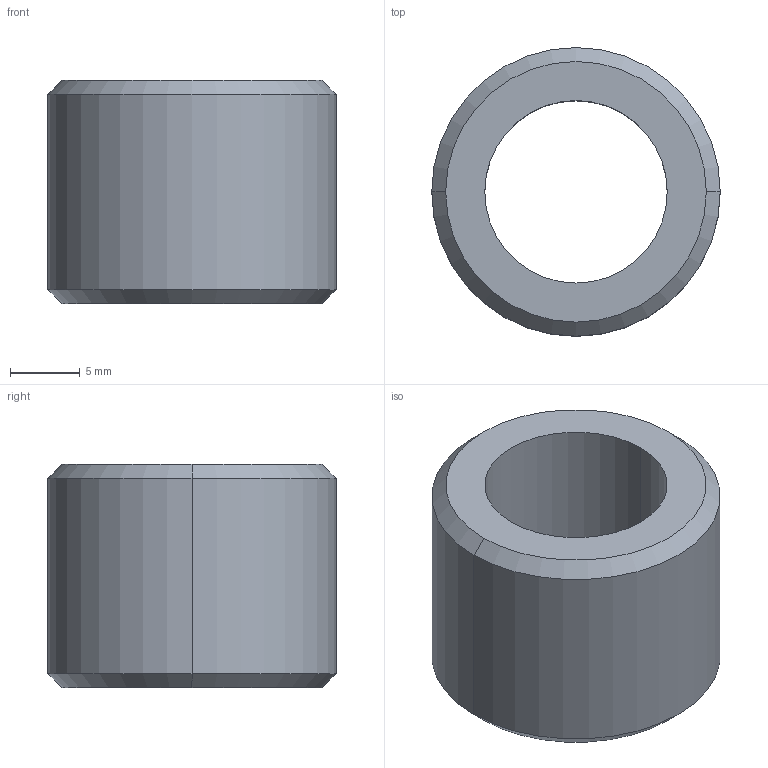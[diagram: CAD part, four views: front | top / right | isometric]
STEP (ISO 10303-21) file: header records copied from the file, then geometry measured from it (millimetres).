
FILE_DESCRIPTION (( 'STEP AP203' ), '1' );
FILE_NAME ('FA60GS09.STEP', '2021-01-25T04:30:25', ( '' ), ( '' ), 'SwSTEP 2.0', 'SolidWorks 2020', '' );
FILE_SCHEMA (( 'CONFIG_CONTROL_DESIGN' ));
Length unit declared in the file: millimetre
Products named in the file (1): FA60GS09
Bounding box: 20.7 x 20.7 x 16 mm (x, y, z)
Volume: 3166.4 mm3; surface area: 2023.7 mm2
Topology: 1 solids, 1 shells, 10 faces, 20 edges, 12 vertices
Faces by surface type: cone 4, cylinder 4, plane 2
Entity records: 345 total; most frequent: DIRECTION 54, CARTESIAN_POINT 43, ORIENTED_EDGE 40, AXIS2_PLACEMENT_3D 23, EDGE_CURVE 20, CIRCLE 12, EDGE_LOOP 12, VERTEX_POINT 12
